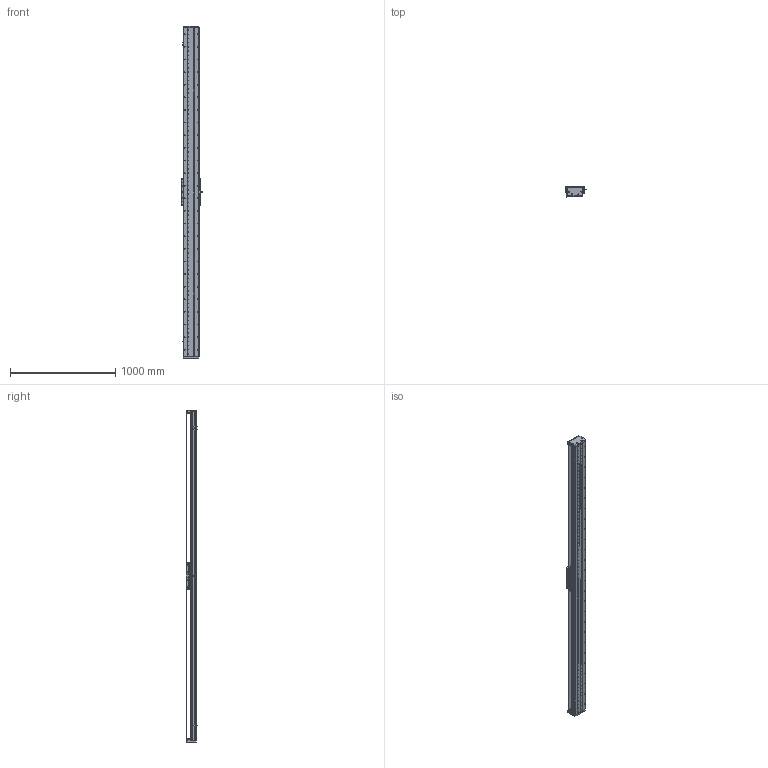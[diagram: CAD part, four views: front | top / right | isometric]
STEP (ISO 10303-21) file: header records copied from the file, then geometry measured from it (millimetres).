
FILE_DESCRIPTION (( 'STEP AP203' ), '1' );
FILE_NAME ('DA-C145-C3-T2820-C010-0.2 眻盄萇儂.STEP', '2025-08-14T01:35:31', ( '' ), ( '' ), 'SwSTEP 2.0', 'SolidWorks 2019', '' );
FILE_SCHEMA (( 'CONFIG_CONTROL_DESIGN' ));
Length unit declared in the file: millimetre
Products named in the file (32): 葩璃 鞠褒情蹟譫 M3^DA-C145-C3-T-C010-0.2; 66245-CU145-HT-W-00 賑雄怢啣(3D芞祧)(00); 葩璃 DA95-GT-T-00^IU-CU145-L 菁釱絳寢; CU145-W 幗紩賑怢; 复件 DA145-C3-YB-B-00 压板B^CU145-W 滚珠滑台; 葩璃 XD-U-02L 棠掑喜^DA-C145-C3-T-C010-0.2; 复件 DA145-GYP-00 光电感应片^DA-C145-C3-T-C010-0.2; 复件 DA145 钢带^复件 CU145 钢带组件_DA-C145-C3-T-C010-0.2; 复件 半圆头内六角螺钉 M3×6^CU145-W 滚珠滑台; 葩璃 CU145 詩湍郪璃^DA-C145-C3-T-C010-0.2; 复件 内六角平端紧定螺钉 GB.T77-2000 M5×10^CU145-W 滚珠滑台; 复件 DA145-C3-YB-A-00 压板A^CU145-W 滚珠滑台; TAY01-M8; 葩璃 CKM03-W060-C1C2-TP-0.2^DA-C145-C3-T-C010-0.2; 葩璃 DA145-C3-DP-A-00 菜えA^CU145-W 幗紩賑怢; IU-CU145-L-00 菁釱(L3120); 复件 DA95-HK-GT-00 滑块钢轨^CU145-W-00 一体化滑动台板; 复件 DA145-C3-DK-00 挡块^CU145-W 滚珠滑台; 复件 DA146 钢带拉块^复件 CU145 钢带组件_DA-C145-C3-T-C010-0.2; IU-CU145-L 菁釱絳寢; 葩璃 PM-T45^DA-C145-C3-T-C010-0.2; CU145-W-00 珨极趙賑雄怢啣; 葩璃 CKMA01-W060-TRL^DA-C145-C3-T-C010-0.2; 复件 DA95-DB-00  挡板^CU145-W 滚珠滑台; 葩璃 DMA-010-0.2 黍杅芛^DA-C145-C3-T-C010-0.2; 复件 DA146 钢带垫块^复件 CU145 钢带组件_DA-C145-C3-T-C010-0.2; 复件 DA95-MFP-01 密封片^CU145-W 滚珠滑台; DA-C145-C3-T2820-C010-0.2 眻盄萇儂; 复件 DA145-DG 钢带端盖^复件 CU145 钢带组件_DA-C145-C3-T-C010-0.2; 复件 纯铜油杯 6x6mm^CU145-W 滚珠滑台; 葩璃 DA145-C3-DP-B-00 菜えB^CU145-W 幗紩賑怢; 葩璃 DA95-HXJ-00 遣喳砎蝶^DA-C145-C3-T-C010-0.2
Assembly tree (103 placements, depth 4):
  DA-C145-C3-T2820-C010-0.2 眻盄萇儂
    IU-CU145-L 菁釱絳寢
      IU-CU145-L-00 菁釱(L3120)
      葩璃 DA95-GT-T-00^IU-CU145-L 菁釱絳寢  x4
    葩璃 CU145 詩湍郪璃^DA-C145-C3-T-C010-0.2
      复件 DA145-DG 钢带端盖^复件 CU145 钢带组件_DA-C145-C3-T-C010-0.2  x2
      复件 DA146 钢带拉块^复件 CU145 钢带组件_DA-C145-C3-T-C010-0.2  x2
      复件 DA146 钢带垫块^复件 CU145 钢带组件_DA-C145-C3-T-C010-0.2  x2
      复件 DA145 钢带^复件 CU145 钢带组件_DA-C145-C3-T-C010-0.2
    CU145-W 幗紩賑怢
      CU145-W-00 珨极趙賑雄怢啣
        66245-CU145-HT-W-00 賑雄怢啣(3D芞祧)(00)
        复件 DA95-HK-GT-00 滑块钢轨^CU145-W-00 一体化滑动台板  x8
      复件 DA95-MFP-01 密封片^CU145-W 滚珠滑台  x8
      复件 DA95-DB-00  挡板^CU145-W 滚珠滑台  x8
      复件 内六角平端紧定螺钉 GB.T77-2000 M5×10^CU145-W 滚珠滑台  x4
      复件 纯铜油杯 6x6mm^CU145-W 滚珠滑台  x4
      复件 半圆头内六角螺钉 M3×6^CU145-W 滚珠滑台  x16
      复件 DA145-C3-DK-00 挡块^CU145-W 滚珠滑台  x4
      葩璃 DA145-C3-DP-B-00 菜えB^CU145-W 幗紩賑怢  x2
      复件 DA145-C3-YB-B-00 压板B^CU145-W 滚珠滑台  x2
      葩璃 DA145-C3-DP-A-00 菜えA^CU145-W 幗紩賑怢  x3
      复件 DA145-C3-YB-A-00 压板A^CU145-W 滚珠滑台  x3
      TAY01-M8  x4
    葩璃 CKMA01-W060-TRL^DA-C145-C3-T-C010-0.2
    葩璃 PM-T45^DA-C145-C3-T-C010-0.2  x3
    葩璃 XD-U-02L 棠掑喜^DA-C145-C3-T-C010-0.2
    葩璃 DA95-HXJ-00 遣喳砎蝶^DA-C145-C3-T-C010-0.2  x4
    复件 DA145-GYP-00 光电感应片^DA-C145-C3-T-C010-0.2
    葩璃 DMA-010-0.2 黍杅芛^DA-C145-C3-T-C010-0.2
    葩璃 CKM03-W060-C1C2-TP-0.2^DA-C145-C3-T-C010-0.2
    葩璃 鞠褒情蹟譫 M3^DA-C145-C3-T-C010-0.2  x8
Bounding box: 203.5 x 108.45 x 3156 mm (x, y, z)
Volume: 14436408 mm3; surface area: 4875089.3 mm2
Topology: 99 solids, 131 shells, 4857 faces, 14132 edges, 8886 vertices
Faces by surface type: cylinder 2485, plane 1604, cone 690, torus 74, sphere 4
Entity records: 140226 total; most frequent: CARTESIAN_POINT 43206, ORIENTED_EDGE 19784, DIRECTION 18539, EDGE_CURVE 9892, AXIS2_PLACEMENT_3D 6978, VERTEX_POINT 6425, LINE 4583, VECTOR 4583
